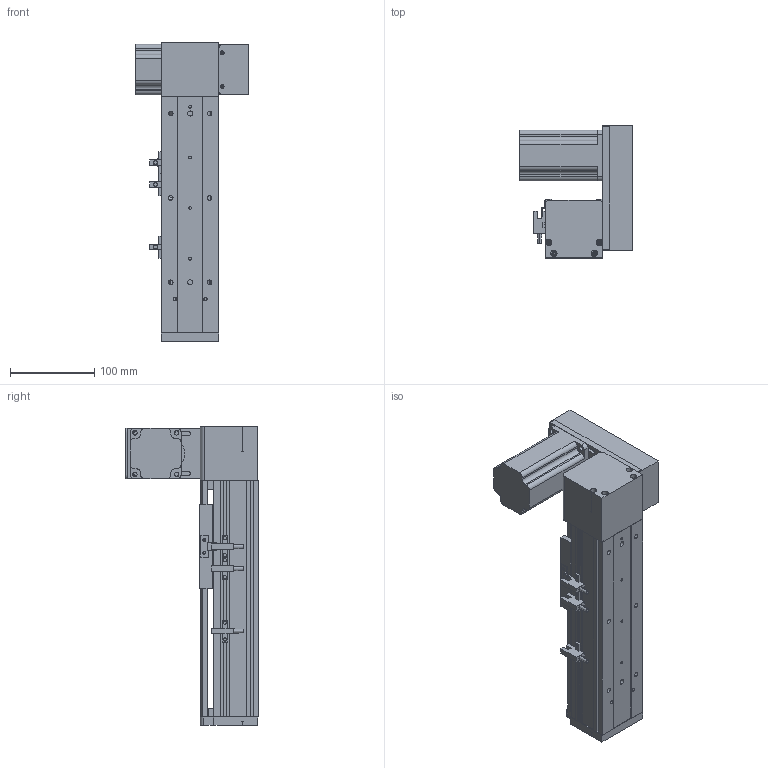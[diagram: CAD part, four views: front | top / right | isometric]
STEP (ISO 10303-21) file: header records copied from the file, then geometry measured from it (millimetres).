
FILE_DESCRIPTION (( 'STEP AP203' ), '1' );
FILE_NAME ('ML68-S100-UL.STEP', '2016-08-04T12:29:42', ( '' ), ( '' ), 'SwSTEP 2.0', 'SolidWorks 2014', '' );
FILE_SCHEMA (( 'CONFIG_CONTROL_DESIGN' ));
Length unit declared in the file: millimetre
Products named in the file (26): 導軌^复件 线性导轨（EGH15CA1R310）_ML68-S100-UL_預設; ML68-S100-UL; QS68酘衵殏萇儂啣; MS68植雄肮祭謫HTD3M22喘; QS68左右折电机板罩子; M68肮祭謫盓傅釱; 換覜ん; ML68奻裔^ML68-S100-UL; 滅袉蝶朴12X13; MR148ZZ粣創; ML68雄赽釱; ML68傷啣; MS68肮祭湍揤沭; 滑塊^复件 线性导轨（EGH15CA1R310）_ML68-S100-UL_預設; ML68菁釱^ML68-S100-UL; ML68滅鳥啣盓傅輸媼; MS68植雄肮祭謫粣; ML68滅鳥啣盓傅輸; ML68-BR傷啣; 60換覜結え; MS68翋雄肮祭謫HTD3M22喘; MS68翋雄肮祭謫粣; 复件 线性导轨（EGH15CA1R310）^ML68-S100-UL_預設; 三协电机MH201N2_預設; 61901ZZ旮僱⑩粣創; 61901粣創揤輸
Assembly tree (33 placements, depth 3):
  ML68-S100-UL
    ML68菁釱^ML68-S100-UL
    ML68奻裔^ML68-S100-UL
    60換覜結え
    ML68-BR傷啣
    換覜ん  x3
    ML68傷啣
    三协电机MH201N2_預設
    ML68雄赽釱
    QS68酘衵殏萇儂啣
    QS68左右折电机板罩子
    复件 线性导轨（EGH15CA1R310）^ML68-S100-UL_預設
      導軌^复件 线性导轨（EGH15CA1R310）_ML68-S100-UL_預設
      滑塊^复件 线性导轨（EGH15CA1R310）_ML68-S100-UL_預設
    滅袉蝶朴12X13  x3
    MS68植雄肮祭謫HTD3M22喘
    MS68翋雄肮祭謫HTD3M22喘
    M68肮祭謫盓傅釱  x2
    MS68植雄肮祭謫粣
    MS68翋雄肮祭謫粣
    MR148ZZ粣創  x2
    61901ZZ旮僱⑩粣創  x2
    MS68肮祭湍揤沭  x2
    ML68滅鳥啣盓傅輸
    61901粣創揤輸
    ML68滅鳥啣盓傅輸媼
Bounding box: 133.5 x 157 x 354 mm (x, y, z)
Volume: 1232840.8 mm3; surface area: 409698.6 mm2
Topology: 32 solids, 32 shells, 1837 faces, 5190 edges, 3344 vertices
Faces by surface type: cylinder 967, plane 518, bspline 192, cone 144, torus 16
Entity records: 57262 total; most frequent: CARTESIAN_POINT 12788, DIRECTION 9008, ORIENTED_EDGE 8664, EDGE_CURVE 4332, AXIS2_PLACEMENT_3D 3512, VERTEX_POINT 2844, CIRCLE 1988, VECTOR 1984
